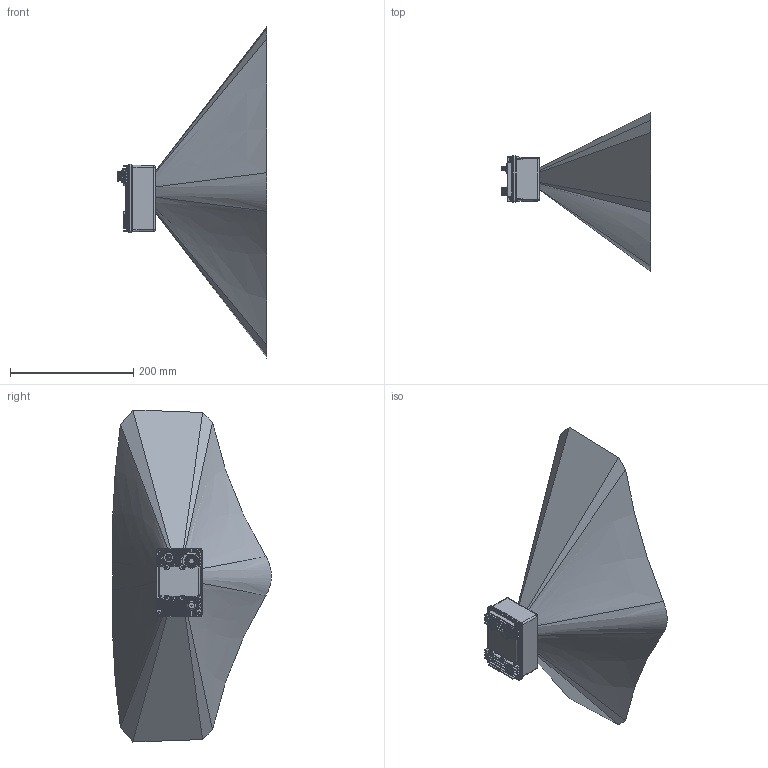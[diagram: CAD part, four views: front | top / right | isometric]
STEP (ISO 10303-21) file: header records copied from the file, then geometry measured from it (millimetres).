
FILE_DESCRIPTION(/* description */ (''),/* implementation_level */ '2;1');
FILE_NAME(/* name */ '10000443_Standard_C.stp',/* time_stamp */ '2023-03-09T09:44:15+01:00',/* author */ ('Menz'),/* organization */ (''),/* preprocessor_version */ 'ST-DEVELOPER v19.2',/* originating_system */ 'Autodesk Inventor 2023',/* authorisation */ '');
FILE_SCHEMA (('AUTOMOTIVE_DESIGN { 1 0 10303 214 3 1 1 }'));
Products named in the file (1): 10000443_simplified
Bounding box: 243.04 x 257.2 x 538 mm (x, y, z)
Volume: 7721496.7 mm3; surface area: 355246 mm2
Topology: 11 solids, 11 shells, 2059 faces, 5330 edges, 3208 vertices
Faces by surface type: cylinder 743, bspline 500, plane 333, torus 208, cone 176, sphere 99
Full cylindrical faces by diameter (mm): 0.9 x1, 3 x28, 3.242 x4, 4.7 x1, 5.3 x1, 6 x4, 6.5 x1, 7.3 x1, 8.25 x1, 9.8 x1, 10.2 x1, 10.517 x5, 10.9 x1, 12.113 x1, 13 x1, 13.5 x1, 14.4 x1, 20 x1
Entity records: 122968 total; most frequent: CARTESIAN_POINT 73768, ORIENTED_EDGE 10440, DIRECTION 9222, EDGE_CURVE 5220, AXIS2_PLACEMENT_3D 3846, VERTEX_POINT 3208, CIRCLE 2195, EDGE_LOOP 2126
